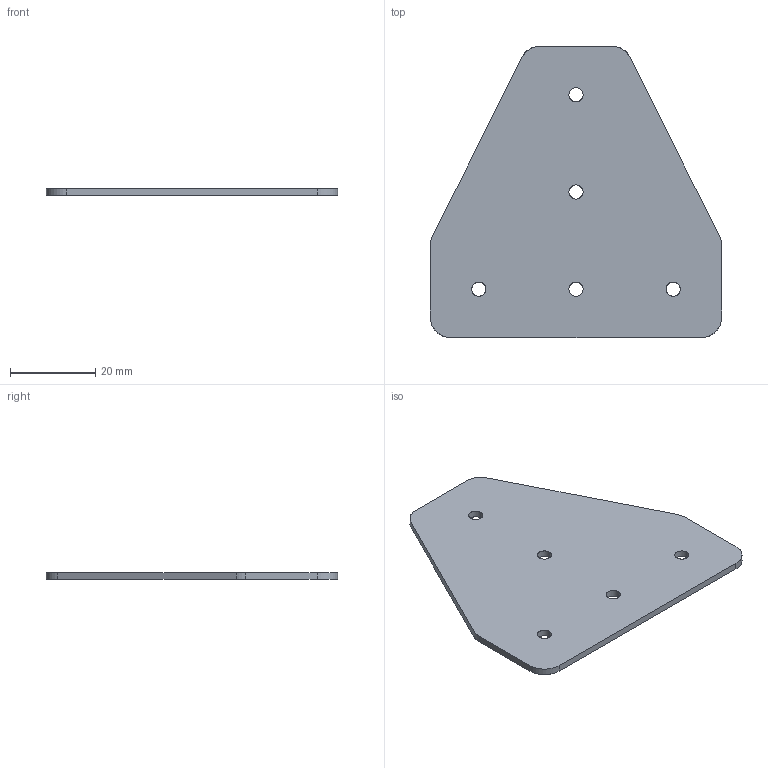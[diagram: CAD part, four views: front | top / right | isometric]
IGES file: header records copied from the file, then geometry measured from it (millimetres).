
Start section: SolidWorks IGES file using analytic representation for surfaces
Global section: file name: C:\Working\Gusset Convert\DRP-002-0008-03.igs; native system: SolidWorks 2010; preprocessor: SolidWorks 2010; author: mbush2; date: 100624.090132; units: inch
Bounding box: 68.2 x 68.2 x 1.59 mm (x, y, z)
Surface area: 7574.4 mm2 (no closed solid volume)
Topology: 0 solids, 0 shells, 24 faces, 492 edges, 492 vertices
Faces by surface type: revolution 16, bspline 8
